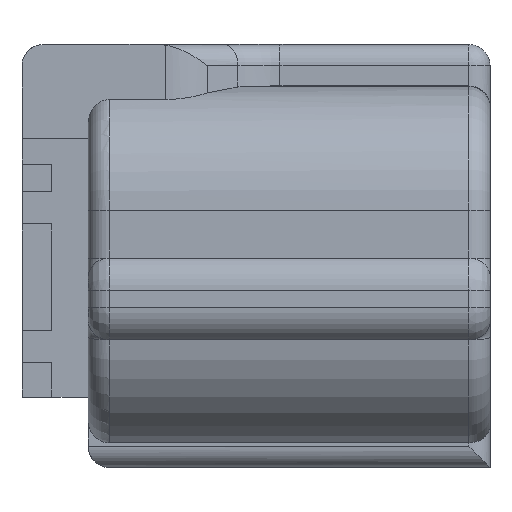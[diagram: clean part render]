
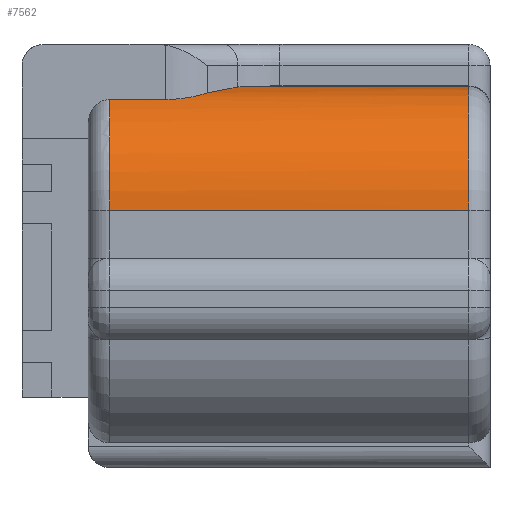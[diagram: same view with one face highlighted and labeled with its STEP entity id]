
A CAD part, front view. The second image highlights one B-rep face of the part: STEP entity #7562.
In plain terms, the highlighted cylindrical face has radius 5.8 mm (diameter 11.6 mm), a partial arc.
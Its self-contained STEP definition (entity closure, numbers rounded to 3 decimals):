
#6155=CARTESIAN_POINT('Vertex',(-17.8,-3.1,6.825)) ;
#6158=CARTESIAN_POINT('Line Origine',(-16.487,-3.1,6.825)) ;
#6162=CARTESIAN_POINT('Vertex',(-15.174,-3.1,6.825)) ;
#6426=CARTESIAN_POINT('Vertex',(-1.,-0.869,7.429)) ;
#6457=CARTESIAN_POINT('Axis2P3D Location',(-1.,-0.5,1.641)) ;
#6461=CARTESIAN_POINT('Vertex',(-1.,-6.3,1.641)) ;
#7494=CARTESIAN_POINT('Control Point',(-15.174,-3.1,6.825)) ;
#7495=CARTESIAN_POINT('Control Point',(-14.63,-3.1,6.825)) ;
#7496=CARTESIAN_POINT('Control Point',(-14.086,-2.967,6.894)) ;
#7497=CARTESIAN_POINT('Control Point',(-13.604,-2.711,7.015)) ;
#7498=CARTESIAN_POINT('Control Point',(-13.204,-2.362,7.134)) ;
#7499=CARTESIAN_POINT('Vertex',(-13.204,-2.362,7.134)) ;
#7514=CARTESIAN_POINT('Axis2P3D Location',(-10.01,-0.5,1.641)) ;
#7519=CARTESIAN_POINT('Line Origine',(-10.01,-0.869,7.429)) ;
#7523=CARTESIAN_POINT('Vertex',(-11.439,-0.869,7.429)) ;
#7527=CARTESIAN_POINT('Control Point',(-11.798,-1.138,7.405)) ;
#7528=CARTESIAN_POINT('Control Point',(-11.685,-1.04,7.416)) ;
#7529=CARTESIAN_POINT('Control Point',(-11.565,-0.95,7.424)) ;
#7530=CARTESIAN_POINT('Control Point',(-11.439,-0.869,7.429)) ;
#7531=CARTESIAN_POINT('Vertex',(-11.798,-1.138,7.405)) ;
#7535=CARTESIAN_POINT('Control Point',(-13.204,-2.362,7.134)) ;
#7536=CARTESIAN_POINT('Control Point',(-12.741,-1.959,7.27)) ;
#7537=CARTESIAN_POINT('Control Point',(-12.271,-1.55,7.36)) ;
#7538=CARTESIAN_POINT('Control Point',(-11.798,-1.138,7.405)) ;
#7540=CARTESIAN_POINT('Axis2P3D Location',(-17.8,-0.5,1.641)) ;
#7544=CARTESIAN_POINT('Vertex',(-17.8,-6.3,1.641)) ;
#7547=CARTESIAN_POINT('Line Origine',(-10.01,-6.3,1.641)) ;
#6159=DIRECTION('Vector Direction',(-1.,0.,0.)) ;
#6458=DIRECTION('Axis2P3D Direction',(1.,-0.,0.)) ;
#7515=DIRECTION('Axis2P3D Direction',(1.,0.,0.)) ;
#7516=DIRECTION('Axis2P3D XDirection',(0.,-0.064,0.998)) ;
#7520=DIRECTION('Vector Direction',(1.,0.,0.)) ;
#7541=DIRECTION('Axis2P3D Direction',(1.,0.,0.)) ;
#7548=DIRECTION('Vector Direction',(1.,0.,0.)) ;
#6459=AXIS2_PLACEMENT_3D('Circle Axis2P3D',#6457,#6458,$) ;
#7517=AXIS2_PLACEMENT_3D('Cylinder Axis2P3D',#7514,#7515,#7516) ;
#7542=AXIS2_PLACEMENT_3D('Circle Axis2P3D',#7540,#7541,$) ;
#7553=ORIENTED_EDGE('',*,*,#7525,.T.) ;
#7554=ORIENTED_EDGE('',*,*,#7533,.F.) ;
#7555=ORIENTED_EDGE('',*,*,#7539,.F.) ;
#7556=ORIENTED_EDGE('',*,*,#7501,.F.) ;
#7557=ORIENTED_EDGE('',*,*,#6164,.T.) ;
#7558=ORIENTED_EDGE('',*,*,#7546,.T.) ;
#7559=ORIENTED_EDGE('',*,*,#7551,.F.) ;
#7560=ORIENTED_EDGE('',*,*,#6463,.F.) ;
#6160=VECTOR('Line Direction',#6159,1.) ;
#7521=VECTOR('Line Direction',#7520,1.) ;
#7549=VECTOR('Line Direction',#7548,1.) ;
#7562=ADVANCED_FACE('\X2\FF8AFF9FFF70FF82\X0\ \X2\FF8EFF9EFF83FF9EFF68FF70\X0\',(#7561),#7518,.T.) ;
#7493=B_SPLINE_CURVE_WITH_KNOTS('',4,(#7494,#7495,#7496,#7497,#7498),.UNSPECIFIED.,.F.,.U.,(5,5),(0.,3.078),.UNSPECIFIED.) ;
#7526=B_SPLINE_CURVE_WITH_KNOTS('',3,(#7527,#7528,#7529,#7530),.UNSPECIFIED.,.F.,.U.,(4,4),(0.,0.635),.UNSPECIFIED.) ;
#7534=B_SPLINE_CURVE_WITH_KNOTS('',3,(#7535,#7536,#7537,#7538),.UNSPECIFIED.,.F.,.U.,(4,4),(0.,2.667),.UNSPECIFIED.) ;
#6460=CIRCLE('generated circle',#6459,5.8) ;
#7543=CIRCLE('generated circle',#7542,5.8) ;
#7518=CYLINDRICAL_SURFACE('generated cylinder',#7517,5.8) ;
#6164=EDGE_CURVE('',#6163,#6156,#6161,.T.) ;
#6463=EDGE_CURVE('',#6427,#6462,#6460,.T.) ;
#7501=EDGE_CURVE('',#6163,#7500,#7493,.T.) ;
#7525=EDGE_CURVE('',#6427,#7524,#7522,.F.) ;
#7533=EDGE_CURVE('',#7532,#7524,#7526,.T.) ;
#7539=EDGE_CURVE('',#7500,#7532,#7534,.T.) ;
#7546=EDGE_CURVE('',#6156,#7545,#7543,.T.) ;
#7551=EDGE_CURVE('',#6462,#7545,#7550,.F.) ;
#7552=EDGE_LOOP('',(#7553,#7554,#7555,#7556,#7557,#7558,#7559,#7560)) ;
#7561=FACE_OUTER_BOUND('',#7552,.T.) ;
#6161=LINE('Line',#6158,#6160) ;
#7522=LINE('Line',#7519,#7521) ;
#7550=LINE('Line',#7547,#7549) ;
#6156=VERTEX_POINT('',#6155) ;
#6163=VERTEX_POINT('',#6162) ;
#6427=VERTEX_POINT('',#6426) ;
#6462=VERTEX_POINT('',#6461) ;
#7500=VERTEX_POINT('',#7499) ;
#7524=VERTEX_POINT('',#7523) ;
#7532=VERTEX_POINT('',#7531) ;
#7545=VERTEX_POINT('',#7544) ;
